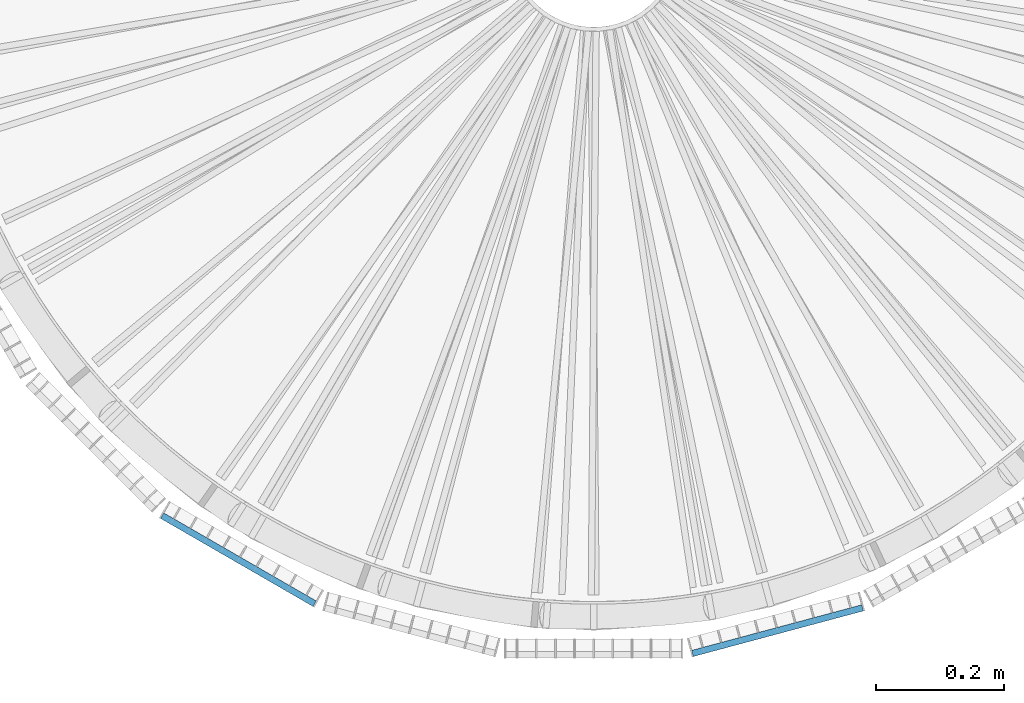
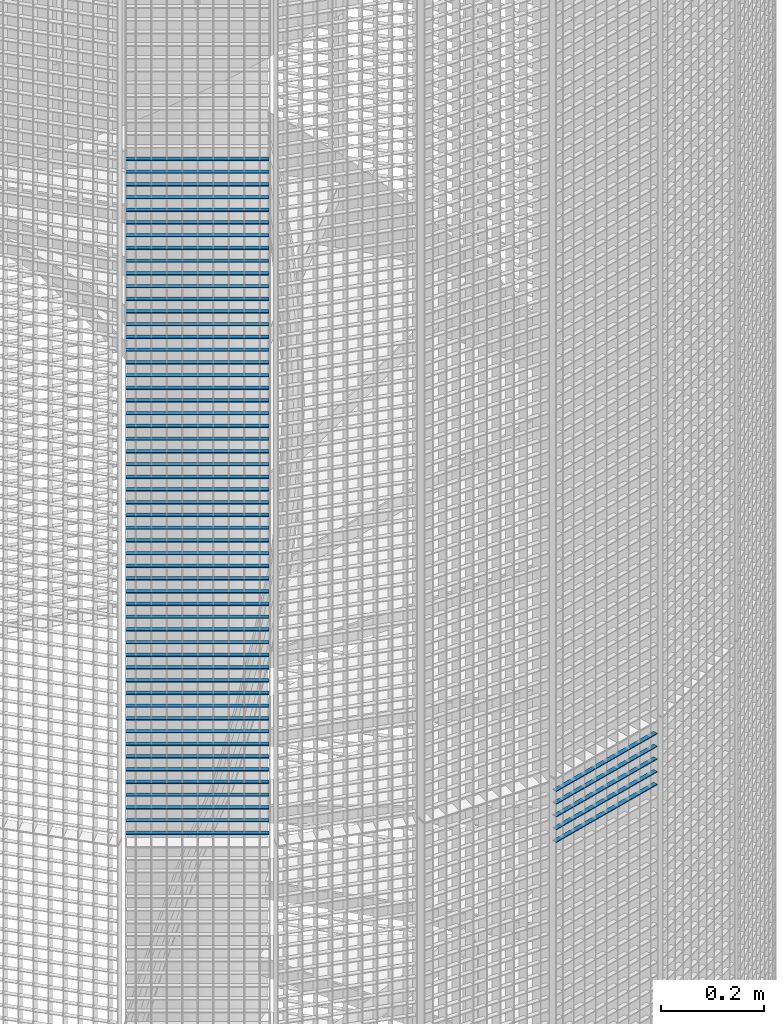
# One storey, part 167 of 1183: 59 beams, 2 elements without a shape of their own.
"""IFC2X3 building model written with IfcOpenShell, lengths in millimetres."""

import ifcopenshell
import ifcopenshell.guid

model = None  # the IFC model being written
_history = None  # IfcOwnerHistory: only IFC2X3 demands one
_inside = {}  # id of a spatial element -> (the spatial element, [elements in it])
_under = {}  # id of a project, library or spatial element -> (it, [spatial elements below it])
_declared = {}  # id of a project -> (the project, [libraries it declares])
_typed = {}  # id of a type object -> (the type object, [elements of that type])
_made_of = {}  # id of a material, layer set ... -> (it, [elements and type objects made of it])


def new_model(schema):
    """Start an empty IFC model of exactly this schema.

    Asked for "IFC4X3", IfcOpenShell would pick the latest addendum, in which some entities
    have other attributes; the version numbers below select the first issue.
    IFC2X3 requires an IfcOwnerHistory on every rooted entity: one is made here for all.
    """
    global model, _history
    if schema == "IFC4X3":
        model = ifcopenshell.file(schema_version=(4, 3, 0, 0))
    else:
        model = ifcopenshell.file(schema=schema)
    _inside.clear()
    _under.clear()
    _declared.clear()
    _typed.clear()
    _made_of.clear()
    _history = None
    if model.schema == "IFC2X3":
        org = make("IfcOrganization", Name="unknown")
        user = make(
            "IfcPersonAndOrganization",
            ThePerson=make("IfcPerson", FamilyName="unknown"),
            TheOrganization=org,
        )
        app = make(
            "IfcApplication",
            ApplicationDeveloper=org,
            Version="unknown",
            ApplicationFullName="unknown",
            ApplicationIdentifier="unknown",
        )
        _history = make(
            "IfcOwnerHistory",
            OwningUser=user,
            OwningApplication=app,
            ChangeAction="ADDED",
            CreationDate=0,
        )
    return model


def make(cls, **values):
    """One entity of the class cls with the attributes given. An attribute that is None is left unset."""
    return model.create_entity(
        cls, **{name: value for name, value in values.items() if value is not None}
    )


def rooted(cls, **values):
    """An entity with a GlobalId (a new one), such as an element, a storey or a relation."""
    return make(cls, GlobalId=ifcopenshell.guid.new(), OwnerHistory=_history, **values)


def si_unit(unit_type, name, prefix=None):
    """IfcSIUnit, for example si_unit("LENGTHUNIT", "METRE", prefix="MILLI")."""
    return make("IfcSIUnit", UnitType=unit_type, Prefix=prefix, Name=name)


def assignment(units):
    """IfcUnitAssignment: the units of a project."""
    return None if units is None else make("IfcUnitAssignment", Units=units)


def point(xyz):
    """IfcCartesianPoint."""
    return None if xyz is None else make("IfcCartesianPoint", Coordinates=xyz)


def direction(xyz):
    """IfcDirection."""
    return None if xyz is None else make("IfcDirection", DirectionRatios=xyz)


def frame(location, z_axis=None, x_axis=None):
    """IfcAxis2Placement3D, a coordinate frame: its origin and axes. An axis left out is left unset."""
    return make(
        "IfcAxis2Placement3D",
        Location=point(location),
        Axis=direction(z_axis),
        RefDirection=direction(x_axis),
    )


def frame_2d(location, x_axis=None):
    """IfcAxis2Placement2D, a coordinate frame in the plane: its origin and x axis."""
    return make(
        "IfcAxis2Placement2D", Location=point(location), RefDirection=direction(x_axis)
    )


def origin_with_axes():
    """The frame at (0, 0, 0) with the z axis (0, 0, 1) and the x axis (1, 0, 0) written out."""
    return frame((0.0, 0.0, 0.0), z_axis=(0.0, 0.0, 1.0), x_axis=(1.0, 0.0, 0.0))


def origin_2d_with_axis():
    """The frame at (0, 0) in the plane with the x axis (1, 0) written out."""
    return frame_2d((0.0, 0.0), x_axis=(1.0, 0.0))


def place(relative_to, where):
    """IfcLocalPlacement: puts the frame where relative to a parent placement (None: the world)."""
    return make(
        "IfcLocalPlacement", PlacementRelTo=relative_to, RelativePlacement=where
    )


def context(
    kind, dimensions, precision=None, world=None, true_north=None, identifier=None
):
    """IfcGeometricRepresentationContext, for example the 3D "Model" context."""
    return make(
        "IfcGeometricRepresentationContext",
        ContextIdentifier=identifier,
        ContextType=kind,
        CoordinateSpaceDimension=dimensions,
        Precision=precision,
        WorldCoordinateSystem=world,
        TrueNorth=true_north,
    )


def subcontext(parent, identifier, kind, view, scale=None):
    """IfcGeometricRepresentationSubContext, for example "Body" below "Model"."""
    return make(
        "IfcGeometricRepresentationSubContext",
        ContextIdentifier=identifier,
        ContextType=kind,
        ParentContext=parent,
        TargetScale=scale,
        TargetView=view,
    )


def project(units=None, contexts=None):
    """IfcProject with its units and contexts."""
    return rooted(
        "IfcProject",
        Name="project",
        RepresentationContexts=contexts,
        UnitsInContext=assignment(units),
    )


def spatial(cls, under=None, at=None, **own):
    """A site, building, storey or space (cls), placed at a placement, below another one or the project."""
    s = rooted(cls, ObjectPlacement=at, **own)
    if under is not None:
        _under.setdefault(under.id(), (under, []))[1].append(s)
    return s


def profile(cls, at=None, kind="AREA", **sizes):
    """A parametric profile (cls). Its sizes go by their IFC names, for example OverallWidth=200.0."""
    return make(cls, ProfileType=kind, Position=at, **sizes)


def rectangle(**sizes):
    """IfcRectangleProfileDef."""
    return profile("IfcRectangleProfileDef", **sizes)


def extrude(swept, where, along, depth):
    """IfcExtrudedAreaSolid: the profile swept, set in the frame where, extruded along a direction by depth."""
    return make(
        "IfcExtrudedAreaSolid",
        SweptArea=swept,
        Position=where,
        ExtrudedDirection=direction(along),
        Depth=depth,
    )


def shape(context_of_items, identifier, shape_type, items):
    """IfcShapeRepresentation: the items that make up one representation, for example the "Body"."""
    return make(
        "IfcShapeRepresentation",
        ContextOfItems=context_of_items,
        RepresentationIdentifier=identifier,
        RepresentationType=shape_type,
        Items=items,
    )


def material(Name=None, Category=None):
    """IfcMaterial."""
    return make("IfcMaterial", Name=Name, Category=Category)


def made_of(thing, what):
    """Note that an element or type object is made of a material, layer set ...; save() writes the relation."""
    if what is not None:
        _made_of.setdefault(what.id(), (what, []))[1].append(thing)
    return thing


def type_object(cls, material=None, **own):
    """A type object (cls), such as IfcWallType, which elements share."""
    return made_of(rooted(cls, **own), material)


def element(
    cls,
    number,
    at=None,
    inside=None,
    cuts=None,
    type_object=None,
    material=None,
    context=None,
    identifier="Body",
    shape_type=None,
    held_by="IfcProductDefinitionShape",
    body=None,
    shapes=None,
    **own,
):
    """One element of the class cls, such as IfcWall. Its Tag is "e" and its number.

    at: its placement. inside: the storey or other place that contains it. cuts: it is an
    opening in that element (IfcRelVoidsElement). A single representation is given by context,
    identifier, shape_type and body (its items); several are given by shapes. held_by: the class
    of the entity that holds the representations. save() writes the other relations.
    """
    e = rooted(cls, Tag="e%d" % number, ObjectPlacement=at, **own)
    if body is not None:
        shapes = [shape(context, identifier, shape_type, body)]
    if shapes is not None:
        e.Representation = make(held_by, Representations=shapes)
    if inside is not None:
        _inside.setdefault(inside.id(), (inside, []))[1].append(e)
    if cuts is not None:
        rooted(
            "IfcRelVoidsElement", RelatingBuildingElement=cuts, RelatedOpeningElement=e
        )
    if type_object is not None:
        _typed.setdefault(type_object.id(), (type_object, []))[1].append(e)
    return made_of(e, material)


def aggregate(whole, parts):
    """IfcRelAggregates: a whole, such as a stair, and the parts it consists of."""
    return rooted("IfcRelAggregates", RelatingObject=whole, RelatedObjects=parts)


def save(model, path):
    """Write the relations noted so far, then the file.

    IfcRelAggregates (storeys below a building ...), IfcRelContainedInSpatialStructure (elements
    in a storey), IfcRelDefinesByType, IfcRelAssociatesMaterial and IfcRelDeclares: one each for
    every whole, place, type object, material and project.
    """
    for whole, parts in _under.values():
        aggregate(whole, parts)
    for where, things in _inside.values():
        rooted(
            "IfcRelContainedInSpatialStructure",
            RelatedElements=things,
            RelatingStructure=where,
        )
    for kind, things in _typed.values():
        rooted("IfcRelDefinesByType", RelatedObjects=things, RelatingType=kind)
    for what, things in _made_of.values():
        rooted("IfcRelAssociatesMaterial", RelatedObjects=things, RelatingMaterial=what)
    for by, libraries in _declared.values():
        rooted("IfcRelDeclares", RelatingContext=by, RelatedDefinitions=libraries)
    model.write(path)


model = new_model("IFC2X3")

# Units and contexts
model_context = context("Model", 3, precision=1e-05, world=origin_with_axes())
body_context = subcontext(model_context, "Body", "Model", "MODEL_VIEW")
ifc_project = project(units=[si_unit("LENGTHUNIT", "METRE", prefix="MILLI"), si_unit("AREAUNIT", "SQUARE_METRE"), si_unit("VOLUMEUNIT", "CUBIC_METRE"), si_unit("MASSUNIT", "GRAM", prefix="KILO"), si_unit("TIMEUNIT", "SECOND"), si_unit("PLANEANGLEUNIT", "RADIAN"), si_unit("SOLIDANGLEUNIT", "STERADIAN"), si_unit("THERMODYNAMICTEMPERATUREUNIT", "DEGREE_CELSIUS"), si_unit("LUMINOUSINTENSITYUNIT", "LUMEN")], contexts=[model_context])

# Site, building, storey
site_placement = place(None, origin_with_axes())
site = spatial("IfcSite", under=ifc_project, at=site_placement, Name="Undefined", CompositionType="ELEMENT")
building_placement = place(site_placement, origin_with_axes())
building = spatial("IfcBuilding", under=site, at=building_placement, Name="Undefined", CompositionType="ELEMENT")
storey_placement = place(building_placement, origin_with_axes())
storey = spatial("IfcBuildingStorey", under=building, at=storey_placement, Name="Undefined", CompositionType="ELEMENT", Elevation=0.0)

# Assembly, beams
assembly_1_placement = place(storey_placement, origin_with_axes())
assembly_1 = element("IfcElementAssembly", 1, at=assembly_1_placement, inside=storey, Name="BORDURE", AssemblyPlace="NOTDEFINED", PredefinedType="NOTDEFINED")
ifc_material = material(Name="STEEL/S235JR")
beam_type = type_object("IfcBeamType", Name="PL2*10", PredefinedType="NOTDEFINED")
beam_1_placement = place(assembly_1_placement, frame((-676.248044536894, -895.303964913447, 4620.0), z_axis=(-0.49999999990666, -0.866025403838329, 0.0), x_axis=(0.866025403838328, -0.49999999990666, 0.0)))
beam_1 = element("IfcBeam", 2, at=beam_1_placement, type_object=beam_type, material=ifc_material, Name="ENTRETOISE", context=body_context, shape_type="SweptSolid", body=[
    extrude(rectangle(XDim=2.0, YDim=10.0, at=origin_2d_with_axis()), frame((275.999999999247, 9.09494701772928e-13, 1.53210777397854e-14), z_axis=(-1.0, 0.0, 0.0), x_axis=(0.0, -1.0, 0.0)), (0.0, 0.0, 1.0), 276.0),
])
beam_2_placement = place(assembly_1_placement, frame((-676.248044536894, -895.303964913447, 4590.0), z_axis=(-0.49999999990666, -0.866025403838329, 0.0), x_axis=(0.866025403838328, -0.49999999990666, 0.0)))
beam_2 = element("IfcBeam", 3, at=beam_2_placement, type_object=beam_type, material=ifc_material, Name="ENTRETOISE", context=body_context, shape_type="SweptSolid", body=[
    extrude(rectangle(XDim=2.0, YDim=10.0, at=origin_2d_with_axis()), frame((275.999999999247, 9.09494701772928e-13, 1.53210777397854e-14), z_axis=(-1.0, 0.0, 0.0), x_axis=(0.0, -1.0, 0.0)), (0.0, 0.0, 1.0), 276.0),
])
beam_3_placement = place(assembly_1_placement, frame((-676.248044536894, -895.303964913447, 4560.0), z_axis=(-0.49999999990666, -0.866025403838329, 0.0), x_axis=(0.866025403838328, -0.49999999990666, 0.0)))
beam_3 = element("IfcBeam", 4, at=beam_3_placement, type_object=beam_type, material=ifc_material, Name="ENTRETOISE", context=body_context, shape_type="SweptSolid", body=[
    extrude(rectangle(XDim=2.0, YDim=10.0, at=origin_2d_with_axis()), frame((275.999999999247, 9.09494701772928e-13, 1.53210777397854e-14), z_axis=(-1.0, 0.0, 0.0), x_axis=(0.0, -1.0, 0.0)), (0.0, 0.0, 1.0), 276.0),
])
beam_4_placement = place(assembly_1_placement, frame((-676.248044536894, -895.303964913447, 4530.0), z_axis=(-0.49999999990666, -0.866025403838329, 0.0), x_axis=(0.866025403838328, -0.49999999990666, 0.0)))
beam_4 = element("IfcBeam", 5, at=beam_4_placement, type_object=beam_type, material=ifc_material, Name="ENTRETOISE", context=body_context, shape_type="SweptSolid", body=[
    extrude(rectangle(XDim=2.0, YDim=10.0, at=origin_2d_with_axis()), frame((275.999999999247, 9.09494701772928e-13, 1.53210777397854e-14), z_axis=(-1.0, 0.0, 0.0), x_axis=(0.0, -1.0, 0.0)), (0.0, 0.0, 1.0), 276.0),
])
beam_5_placement = place(assembly_1_placement, frame((-676.248044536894, -895.303964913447, 4500.0), z_axis=(-0.49999999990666, -0.866025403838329, 0.0), x_axis=(0.866025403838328, -0.49999999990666, 0.0)))
beam_5 = element("IfcBeam", 6, at=beam_5_placement, type_object=beam_type, material=ifc_material, Name="ENTRETOISE", context=body_context, shape_type="SweptSolid", body=[
    extrude(rectangle(XDim=2.0, YDim=10.0, at=origin_2d_with_axis()), frame((275.999999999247, 9.09494701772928e-13, 1.53210777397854e-14), z_axis=(-1.0, 0.0, 0.0), x_axis=(0.0, -1.0, 0.0)), (0.0, 0.0, 1.0), 276.0),
])
beam_6_placement = place(assembly_1_placement, frame((-676.248044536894, -895.303964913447, 4470.0), z_axis=(-0.49999999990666, -0.866025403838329, 0.0), x_axis=(0.866025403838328, -0.49999999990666, 0.0)))
beam_6 = element("IfcBeam", 7, at=beam_6_placement, type_object=beam_type, material=ifc_material, Name="ENTRETOISE", context=body_context, shape_type="SweptSolid", body=[
    extrude(rectangle(XDim=2.0, YDim=10.0, at=origin_2d_with_axis()), frame((275.999999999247, 9.09494701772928e-13, 1.53210777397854e-14), z_axis=(-1.0, 0.0, 0.0), x_axis=(0.0, -1.0, 0.0)), (0.0, 0.0, 1.0), 276.0),
])
beam_7_placement = place(assembly_1_placement, frame((-676.248044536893, -895.303964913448, 4440.0), z_axis=(-0.49999999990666, -0.866025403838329, 0.0), x_axis=(0.866025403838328, -0.49999999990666, 0.0)))
beam_7 = element("IfcBeam", 8, at=beam_7_placement, type_object=beam_type, material=ifc_material, Name="ENTRETOISE", context=body_context, shape_type="SweptSolid", body=[
    extrude(rectangle(XDim=2.0, YDim=10.0, at=origin_2d_with_axis()), frame((275.999999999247, 9.09494701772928e-13, 1.53210777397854e-14), z_axis=(-1.0, 0.0, 0.0), x_axis=(0.0, -1.0, 0.0)), (0.0, 0.0, 1.0), 276.0),
])
beam_8_placement = place(assembly_1_placement, frame((-676.248044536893, -895.303964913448, 4410.0), z_axis=(-0.49999999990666, -0.866025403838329, 0.0), x_axis=(0.866025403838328, -0.49999999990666, 0.0)))
beam_8 = element("IfcBeam", 9, at=beam_8_placement, type_object=beam_type, material=ifc_material, Name="ENTRETOISE", context=body_context, shape_type="SweptSolid", body=[
    extrude(rectangle(XDim=2.0, YDim=10.0, at=origin_2d_with_axis()), frame((275.999999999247, 9.09494701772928e-13, 1.53210777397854e-14), z_axis=(-1.0, 0.0, 0.0), x_axis=(0.0, -1.0, 0.0)), (0.0, 0.0, 1.0), 276.0),
])
beam_9_placement = place(assembly_1_placement, frame((-676.248044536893, -895.303964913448, 4380.0), z_axis=(-0.49999999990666, -0.866025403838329, 0.0), x_axis=(0.866025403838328, -0.49999999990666, 0.0)))
beam_9 = element("IfcBeam", 10, at=beam_9_placement, type_object=beam_type, material=ifc_material, Name="ENTRETOISE", context=body_context, shape_type="SweptSolid", body=[
    extrude(rectangle(XDim=2.0, YDim=10.0, at=origin_2d_with_axis()), frame((275.999999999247, 9.09494701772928e-13, 1.53210777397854e-14), z_axis=(-1.0, 0.0, 0.0), x_axis=(0.0, -1.0, 0.0)), (0.0, 0.0, 1.0), 276.0),
])
beam_10_placement = place(assembly_1_placement, frame((-676.248044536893, -895.303964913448, 4350.0), z_axis=(-0.49999999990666, -0.866025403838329, 0.0), x_axis=(0.866025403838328, -0.49999999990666, 0.0)))
beam_10 = element("IfcBeam", 11, at=beam_10_placement, type_object=beam_type, material=ifc_material, Name="ENTRETOISE", context=body_context, shape_type="SweptSolid", body=[
    extrude(rectangle(XDim=2.0, YDim=10.0, at=origin_2d_with_axis()), frame((275.999999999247, 9.09494701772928e-13, 1.53210777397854e-14), z_axis=(-1.0, 0.0, 0.0), x_axis=(0.0, -1.0, 0.0)), (0.0, 0.0, 1.0), 276.0),
])
beam_11_placement = place(assembly_1_placement, frame((-676.248044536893, -895.303964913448, 4320.0), z_axis=(-0.49999999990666, -0.866025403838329, 0.0), x_axis=(0.866025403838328, -0.49999999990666, 0.0)))
beam_11 = element("IfcBeam", 12, at=beam_11_placement, type_object=beam_type, material=ifc_material, Name="ENTRETOISE", context=body_context, shape_type="SweptSolid", body=[
    extrude(rectangle(XDim=2.0, YDim=10.0, at=origin_2d_with_axis()), frame((275.999999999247, 9.09494701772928e-13, 1.53210777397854e-14), z_axis=(-1.0, 0.0, 0.0), x_axis=(0.0, -1.0, 0.0)), (0.0, 0.0, 1.0), 276.0),
])
beam_12_placement = place(assembly_1_placement, frame((-676.248044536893, -895.303964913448, 4290.0), z_axis=(-0.49999999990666, -0.866025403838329, 0.0), x_axis=(0.866025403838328, -0.49999999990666, 0.0)))
beam_12 = element("IfcBeam", 13, at=beam_12_placement, type_object=beam_type, material=ifc_material, Name="ENTRETOISE", context=body_context, shape_type="SweptSolid", body=[
    extrude(rectangle(XDim=2.0, YDim=10.0, at=origin_2d_with_axis()), frame((275.999999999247, 9.09494701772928e-13, 1.53210777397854e-14), z_axis=(-1.0, 0.0, 0.0), x_axis=(0.0, -1.0, 0.0)), (0.0, 0.0, 1.0), 276.0),
])
beam_13_placement = place(assembly_1_placement, frame((-676.248044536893, -895.303964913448, 4260.0), z_axis=(-0.49999999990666, -0.866025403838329, 0.0), x_axis=(0.866025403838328, -0.49999999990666, 0.0)))
beam_13 = element("IfcBeam", 14, at=beam_13_placement, type_object=beam_type, material=ifc_material, Name="ENTRETOISE", context=body_context, shape_type="SweptSolid", body=[
    extrude(rectangle(XDim=2.0, YDim=10.0, at=origin_2d_with_axis()), frame((275.999999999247, 9.09494701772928e-13, 1.53210777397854e-14), z_axis=(-1.0, 0.0, 0.0), x_axis=(0.0, -1.0, 0.0)), (0.0, 0.0, 1.0), 276.0),
])
beam_14_placement = place(assembly_1_placement, frame((-676.248044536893, -895.303964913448, 4230.0), z_axis=(-0.49999999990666, -0.866025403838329, 0.0), x_axis=(0.866025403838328, -0.49999999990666, 0.0)))
beam_14 = element("IfcBeam", 15, at=beam_14_placement, type_object=beam_type, material=ifc_material, Name="ENTRETOISE", context=body_context, shape_type="SweptSolid", body=[
    extrude(rectangle(XDim=2.0, YDim=10.0, at=origin_2d_with_axis()), frame((275.999999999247, 9.09494701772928e-13, 1.53210777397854e-14), z_axis=(-1.0, 0.0, 0.0), x_axis=(0.0, -1.0, 0.0)), (0.0, 0.0, 1.0), 276.0),
])
beam_15_placement = place(assembly_1_placement, frame((-676.248044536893, -895.303964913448, 4200.0), z_axis=(-0.49999999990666, -0.866025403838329, 0.0), x_axis=(0.866025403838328, -0.49999999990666, 0.0)))
beam_15 = element("IfcBeam", 16, at=beam_15_placement, type_object=beam_type, material=ifc_material, Name="ENTRETOISE", context=body_context, shape_type="SweptSolid", body=[
    extrude(rectangle(XDim=2.0, YDim=10.0, at=origin_2d_with_axis()), frame((275.999999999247, 9.09494701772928e-13, 1.53210777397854e-14), z_axis=(-1.0, 0.0, 0.0), x_axis=(0.0, -1.0, 0.0)), (0.0, 0.0, 1.0), 276.0),
])
beam_16_placement = place(assembly_1_placement, frame((-676.248044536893, -895.303964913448, 4170.0), z_axis=(-0.49999999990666, -0.866025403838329, 0.0), x_axis=(0.866025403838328, -0.49999999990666, 0.0)))
beam_16 = element("IfcBeam", 17, at=beam_16_placement, type_object=beam_type, material=ifc_material, Name="ENTRETOISE", context=body_context, shape_type="SweptSolid", body=[
    extrude(rectangle(XDim=2.0, YDim=10.0, at=origin_2d_with_axis()), frame((275.999999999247, 9.09494701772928e-13, 1.53210777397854e-14), z_axis=(-1.0, 0.0, 0.0), x_axis=(0.0, -1.0, 0.0)), (0.0, 0.0, 1.0), 276.0),
])
beam_17_placement = place(assembly_1_placement, frame((-676.248044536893, -895.303964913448, 4140.0), z_axis=(-0.49999999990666, -0.866025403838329, 0.0), x_axis=(0.866025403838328, -0.49999999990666, 0.0)))
beam_17 = element("IfcBeam", 18, at=beam_17_placement, type_object=beam_type, material=ifc_material, Name="ENTRETOISE", context=body_context, shape_type="SweptSolid", body=[
    extrude(rectangle(XDim=2.0, YDim=10.0, at=origin_2d_with_axis()), frame((275.999999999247, 9.09494701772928e-13, 1.53210777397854e-14), z_axis=(-1.0, 0.0, 0.0), x_axis=(0.0, -1.0, 0.0)), (0.0, 0.0, 1.0), 276.0),
])
beam_18_placement = place(assembly_1_placement, frame((-676.248044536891, -895.303964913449, 3720.0), z_axis=(-0.49999999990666, -0.866025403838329, 0.0), x_axis=(0.866025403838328, -0.49999999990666, 0.0)))
beam_18 = element("IfcBeam", 19, at=beam_18_placement, type_object=beam_type, material=ifc_material, Name="ENTRETOISE", context=body_context, shape_type="SweptSolid", body=[
    extrude(rectangle(XDim=2.0, YDim=10.0, at=origin_2d_with_axis()), frame((275.999999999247, 9.09494701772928e-13, 1.53210777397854e-14), z_axis=(-1.0, 0.0, 0.0), x_axis=(0.0, -1.0, 0.0)), (0.0, 0.0, 1.0), 276.0),
])
beam_19_placement = place(assembly_1_placement, frame((-676.248044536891, -895.303964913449, 3690.0), z_axis=(-0.49999999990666, -0.866025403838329, 0.0), x_axis=(0.866025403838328, -0.49999999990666, 0.0)))
beam_19 = element("IfcBeam", 20, at=beam_19_placement, type_object=beam_type, material=ifc_material, Name="ENTRETOISE", context=body_context, shape_type="SweptSolid", body=[
    extrude(rectangle(XDim=2.0, YDim=10.0, at=origin_2d_with_axis()), frame((275.999999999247, 9.09494701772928e-13, 1.53210777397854e-14), z_axis=(-1.0, 0.0, 0.0), x_axis=(0.0, -1.0, 0.0)), (0.0, 0.0, 1.0), 276.0),
])
beam_20_placement = place(assembly_1_placement, frame((-676.248044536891, -895.303964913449, 3750.0), z_axis=(-0.49999999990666, -0.866025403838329, 0.0), x_axis=(0.866025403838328, -0.49999999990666, 0.0)))
beam_20 = element("IfcBeam", 21, at=beam_20_placement, type_object=beam_type, material=ifc_material, Name="ENTRETOISE", context=body_context, shape_type="SweptSolid", body=[
    extrude(rectangle(XDim=2.0, YDim=10.0, at=origin_2d_with_axis()), frame((275.999999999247, 9.09494701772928e-13, 1.53210777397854e-14), z_axis=(-1.0, 0.0, 0.0), x_axis=(0.0, -1.0, 0.0)), (0.0, 0.0, 1.0), 276.0),
])
beam_21_placement = place(assembly_1_placement, frame((-676.248044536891, -895.303964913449, 3660.0), z_axis=(-0.49999999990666, -0.866025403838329, 0.0), x_axis=(0.866025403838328, -0.49999999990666, 0.0)))
beam_21 = element("IfcBeam", 22, at=beam_21_placement, type_object=beam_type, material=ifc_material, Name="ENTRETOISE", context=body_context, shape_type="SweptSolid", body=[
    extrude(rectangle(XDim=2.0, YDim=10.0, at=origin_2d_with_axis()), frame((275.999999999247, 9.09494701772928e-13, 1.53210777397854e-14), z_axis=(-1.0, 0.0, 0.0), x_axis=(0.0, -1.0, 0.0)), (0.0, 0.0, 1.0), 276.0),
])
beam_22_placement = place(assembly_1_placement, frame((-676.248044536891, -895.303964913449, 3630.0), z_axis=(-0.49999999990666, -0.866025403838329, 0.0), x_axis=(0.866025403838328, -0.49999999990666, 0.0)))
beam_22 = element("IfcBeam", 23, at=beam_22_placement, type_object=beam_type, material=ifc_material, Name="ENTRETOISE", context=body_context, shape_type="SweptSolid", body=[
    extrude(rectangle(XDim=2.0, YDim=10.0, at=origin_2d_with_axis()), frame((275.999999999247, 9.09494701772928e-13, 1.53210777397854e-14), z_axis=(-1.0, 0.0, 0.0), x_axis=(0.0, -1.0, 0.0)), (0.0, 0.0, 1.0), 276.0),
])
beam_23_placement = place(assembly_1_placement, frame((-676.248044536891, -895.303964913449, 3780.0), z_axis=(-0.49999999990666, -0.866025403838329, 0.0), x_axis=(0.866025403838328, -0.49999999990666, 0.0)))
beam_23 = element("IfcBeam", 24, at=beam_23_placement, type_object=beam_type, material=ifc_material, Name="ENTRETOISE", context=body_context, shape_type="SweptSolid", body=[
    extrude(rectangle(XDim=2.0, YDim=10.0, at=origin_2d_with_axis()), frame((275.999999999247, 9.09494701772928e-13, 1.53210777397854e-14), z_axis=(-1.0, 0.0, 0.0), x_axis=(0.0, -1.0, 0.0)), (0.0, 0.0, 1.0), 276.0),
])
beam_24_placement = place(assembly_1_placement, frame((-676.248044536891, -895.30396491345, 3600.0), z_axis=(-0.49999999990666, -0.866025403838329, 0.0), x_axis=(0.866025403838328, -0.49999999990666, 0.0)))
beam_24 = element("IfcBeam", 25, at=beam_24_placement, type_object=beam_type, material=ifc_material, Name="ENTRETOISE", context=body_context, shape_type="SweptSolid", body=[
    extrude(rectangle(XDim=2.0, YDim=10.0, at=origin_2d_with_axis()), frame((275.999999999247, 9.09494701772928e-13, 1.53210777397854e-14), z_axis=(-1.0, 0.0, 0.0), x_axis=(0.0, -1.0, 0.0)), (0.0, 0.0, 1.0), 276.0),
])
beam_25_placement = place(assembly_1_placement, frame((-676.248044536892, -895.303964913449, 3810.0), z_axis=(-0.49999999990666, -0.866025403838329, 0.0), x_axis=(0.866025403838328, -0.49999999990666, 0.0)))
beam_25 = element("IfcBeam", 26, at=beam_25_placement, type_object=beam_type, material=ifc_material, Name="ENTRETOISE", context=body_context, shape_type="SweptSolid", body=[
    extrude(rectangle(XDim=2.0, YDim=10.0, at=origin_2d_with_axis()), frame((275.999999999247, 9.09494701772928e-13, 1.53210777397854e-14), z_axis=(-1.0, 0.0, 0.0), x_axis=(0.0, -1.0, 0.0)), (0.0, 0.0, 1.0), 276.0),
])
beam_26_placement = place(assembly_1_placement, frame((-676.248044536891, -895.30396491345, 3570.0), z_axis=(-0.49999999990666, -0.866025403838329, 0.0), x_axis=(0.866025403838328, -0.49999999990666, 0.0)))
beam_26 = element("IfcBeam", 27, at=beam_26_placement, type_object=beam_type, material=ifc_material, Name="ENTRETOISE", context=body_context, shape_type="SweptSolid", body=[
    extrude(rectangle(XDim=2.0, YDim=10.0, at=origin_2d_with_axis()), frame((275.999999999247, 9.09494701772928e-13, 1.53210777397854e-14), z_axis=(-1.0, 0.0, 0.0), x_axis=(0.0, -1.0, 0.0)), (0.0, 0.0, 1.0), 276.0),
])
beam_27_placement = place(assembly_1_placement, frame((-676.248044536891, -895.30396491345, 3540.0), z_axis=(-0.49999999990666, -0.866025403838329, 0.0), x_axis=(0.866025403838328, -0.49999999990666, 0.0)))
beam_27 = element("IfcBeam", 28, at=beam_27_placement, type_object=beam_type, material=ifc_material, Name="ENTRETOISE", context=body_context, shape_type="SweptSolid", body=[
    extrude(rectangle(XDim=2.0, YDim=10.0, at=origin_2d_with_axis()), frame((275.999999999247, 9.09494701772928e-13, 1.53210777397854e-14), z_axis=(-1.0, 0.0, 0.0), x_axis=(0.0, -1.0, 0.0)), (0.0, 0.0, 1.0), 276.0),
])
beam_28_placement = place(assembly_1_placement, frame((-676.248044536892, -895.303964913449, 3840.0), z_axis=(-0.49999999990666, -0.866025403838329, 0.0), x_axis=(0.866025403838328, -0.49999999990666, 0.0)))
beam_28 = element("IfcBeam", 29, at=beam_28_placement, type_object=beam_type, material=ifc_material, Name="ENTRETOISE", context=body_context, shape_type="SweptSolid", body=[
    extrude(rectangle(XDim=2.0, YDim=10.0, at=origin_2d_with_axis()), frame((275.999999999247, 9.09494701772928e-13, 1.53210777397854e-14), z_axis=(-1.0, 0.0, 0.0), x_axis=(0.0, -1.0, 0.0)), (0.0, 0.0, 1.0), 276.0),
])
beam_29_placement = place(assembly_1_placement, frame((-676.248044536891, -895.303964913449, 3510.0), z_axis=(-0.49999999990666, -0.866025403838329, 0.0), x_axis=(0.866025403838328, -0.49999999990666, 0.0)))
beam_29 = element("IfcBeam", 30, at=beam_29_placement, type_object=beam_type, material=ifc_material, Name="ENTRETOISE", context=body_context, shape_type="SweptSolid", body=[
    extrude(rectangle(XDim=2.0, YDim=10.0, at=origin_2d_with_axis()), frame((275.999999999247, 9.09494701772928e-13, 1.53210777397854e-14), z_axis=(-1.0, 0.0, 0.0), x_axis=(0.0, -1.0, 0.0)), (0.0, 0.0, 1.0), 276.0),
])
beam_30_placement = place(assembly_1_placement, frame((-676.248044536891, -895.303964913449, 3480.0), z_axis=(-0.49999999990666, -0.866025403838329, 0.0), x_axis=(0.866025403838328, -0.49999999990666, 0.0)))
beam_30 = element("IfcBeam", 31, at=beam_30_placement, type_object=beam_type, material=ifc_material, Name="ENTRETOISE", context=body_context, shape_type="SweptSolid", body=[
    extrude(rectangle(XDim=2.0, YDim=10.0, at=origin_2d_with_axis()), frame((275.999999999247, 9.09494701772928e-13, 1.53210777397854e-14), z_axis=(-1.0, 0.0, 0.0), x_axis=(0.0, -1.0, 0.0)), (0.0, 0.0, 1.0), 276.0),
])
beam_31_placement = place(assembly_1_placement, frame((-676.248044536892, -895.303964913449, 3870.0), z_axis=(-0.49999999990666, -0.866025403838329, 0.0), x_axis=(0.866025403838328, -0.49999999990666, 0.0)))
beam_31 = element("IfcBeam", 32, at=beam_31_placement, type_object=beam_type, material=ifc_material, Name="ENTRETOISE", context=body_context, shape_type="SweptSolid", body=[
    extrude(rectangle(XDim=2.0, YDim=10.0, at=origin_2d_with_axis()), frame((275.999999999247, 9.09494701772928e-13, 1.53210777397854e-14), z_axis=(-1.0, 0.0, 0.0), x_axis=(0.0, -1.0, 0.0)), (0.0, 0.0, 1.0), 276.0),
])
beam_32_placement = place(assembly_1_placement, frame((-676.248044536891, -895.30396491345, 3450.0), z_axis=(-0.49999999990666, -0.866025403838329, 0.0), x_axis=(0.866025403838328, -0.49999999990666, 0.0)))
beam_32 = element("IfcBeam", 33, at=beam_32_placement, type_object=beam_type, material=ifc_material, Name="ENTRETOISE", context=body_context, shape_type="SweptSolid", body=[
    extrude(rectangle(XDim=2.0, YDim=10.0, at=origin_2d_with_axis()), frame((275.999999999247, 9.09494701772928e-13, 1.53210777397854e-14), z_axis=(-1.0, 0.0, 0.0), x_axis=(0.0, -1.0, 0.0)), (0.0, 0.0, 1.0), 276.0),
])
beam_33_placement = place(assembly_1_placement, frame((-676.24804453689, -895.30396491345, 3420.0), z_axis=(-0.49999999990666, -0.866025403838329, 0.0), x_axis=(0.866025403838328, -0.49999999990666, 0.0)))
beam_33 = element("IfcBeam", 34, at=beam_33_placement, type_object=beam_type, material=ifc_material, Name="ENTRETOISE", context=body_context, shape_type="SweptSolid", body=[
    extrude(rectangle(XDim=2.0, YDim=10.0, at=origin_2d_with_axis()), frame((275.999999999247, 9.09494701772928e-13, 1.53210777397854e-14), z_axis=(-1.0, 0.0, 0.0), x_axis=(0.0, -1.0, 0.0)), (0.0, 0.0, 1.0), 276.0),
])
beam_34_placement = place(assembly_1_placement, frame((-676.248044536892, -895.303964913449, 3900.0), z_axis=(-0.49999999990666, -0.866025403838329, 0.0), x_axis=(0.866025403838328, -0.49999999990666, 0.0)))
beam_34 = element("IfcBeam", 35, at=beam_34_placement, type_object=beam_type, material=ifc_material, Name="ENTRETOISE", context=body_context, shape_type="SweptSolid", body=[
    extrude(rectangle(XDim=2.0, YDim=10.0, at=origin_2d_with_axis()), frame((275.999999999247, 9.09494701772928e-13, 1.53210777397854e-14), z_axis=(-1.0, 0.0, 0.0), x_axis=(0.0, -1.0, 0.0)), (0.0, 0.0, 1.0), 276.0),
])
beam_35_placement = place(assembly_1_placement, frame((-676.24804453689, -895.30396491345, 3390.0), z_axis=(-0.49999999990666, -0.866025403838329, 0.0), x_axis=(0.866025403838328, -0.49999999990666, 0.0)))
beam_35 = element("IfcBeam", 36, at=beam_35_placement, type_object=beam_type, material=ifc_material, Name="ENTRETOISE", context=body_context, shape_type="SweptSolid", body=[
    extrude(rectangle(XDim=2.0, YDim=10.0, at=origin_2d_with_axis()), frame((275.999999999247, 9.09494701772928e-13, 1.53210777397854e-14), z_axis=(-1.0, 0.0, 0.0), x_axis=(0.0, -1.0, 0.0)), (0.0, 0.0, 1.0), 276.0),
])
beam_36_placement = place(assembly_1_placement, frame((-676.248044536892, -895.303964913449, 3930.0), z_axis=(-0.49999999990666, -0.866025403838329, 0.0), x_axis=(0.866025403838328, -0.49999999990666, 0.0)))
beam_36 = element("IfcBeam", 37, at=beam_36_placement, type_object=beam_type, material=ifc_material, Name="ENTRETOISE", context=body_context, shape_type="SweptSolid", body=[
    extrude(rectangle(XDim=2.0, YDim=10.0, at=origin_2d_with_axis()), frame((275.999999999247, 9.09494701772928e-13, 1.53210777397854e-14), z_axis=(-1.0, 0.0, 0.0), x_axis=(0.0, -1.0, 0.0)), (0.0, 0.0, 1.0), 276.0),
])
beam_37_placement = place(assembly_1_placement, frame((-676.24804453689, -895.30396491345, 3360.0), z_axis=(-0.49999999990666, -0.866025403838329, 0.0), x_axis=(0.866025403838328, -0.49999999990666, 0.0)))
beam_37 = element("IfcBeam", 38, at=beam_37_placement, type_object=beam_type, material=ifc_material, Name="ENTRETOISE", context=body_context, shape_type="SweptSolid", body=[
    extrude(rectangle(XDim=2.0, YDim=10.0, at=origin_2d_with_axis()), frame((275.999999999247, 9.09494701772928e-13, 1.53210777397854e-14), z_axis=(-1.0, 0.0, 0.0), x_axis=(0.0, -1.0, 0.0)), (0.0, 0.0, 1.0), 276.0),
])
beam_38_placement = place(assembly_1_placement, frame((-676.24804453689, -895.30396491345, 3330.0), z_axis=(-0.49999999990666, -0.866025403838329, 0.0), x_axis=(0.866025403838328, -0.49999999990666, 0.0)))
beam_38 = element("IfcBeam", 39, at=beam_38_placement, type_object=beam_type, material=ifc_material, Name="ENTRETOISE", context=body_context, shape_type="SweptSolid", body=[
    extrude(rectangle(XDim=2.0, YDim=10.0, at=origin_2d_with_axis()), frame((275.999999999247, 9.09494701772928e-13, 1.53210777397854e-14), z_axis=(-1.0, 0.0, 0.0), x_axis=(0.0, -1.0, 0.0)), (0.0, 0.0, 1.0), 276.0),
])
beam_39_placement = place(assembly_1_placement, frame((-676.248044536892, -895.303964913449, 3960.0), z_axis=(-0.49999999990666, -0.866025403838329, 0.0), x_axis=(0.866025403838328, -0.49999999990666, 0.0)))
beam_39 = element("IfcBeam", 40, at=beam_39_placement, type_object=beam_type, material=ifc_material, Name="ENTRETOISE", context=body_context, shape_type="SweptSolid", body=[
    extrude(rectangle(XDim=2.0, YDim=10.0, at=origin_2d_with_axis()), frame((275.999999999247, 9.09494701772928e-13, 1.53210777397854e-14), z_axis=(-1.0, 0.0, 0.0), x_axis=(0.0, -1.0, 0.0)), (0.0, 0.0, 1.0), 276.0),
])
beam_40_placement = place(assembly_1_placement, frame((-676.24804453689, -895.30396491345, 3300.0), z_axis=(-0.49999999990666, -0.866025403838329, 0.0), x_axis=(0.866025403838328, -0.49999999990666, 0.0)))
beam_40 = element("IfcBeam", 41, at=beam_40_placement, type_object=beam_type, material=ifc_material, Name="ENTRETOISE", context=body_context, shape_type="SweptSolid", body=[
    extrude(rectangle(XDim=2.0, YDim=10.0, at=origin_2d_with_axis()), frame((275.999999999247, 9.09494701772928e-13, 1.53210777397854e-14), z_axis=(-1.0, 0.0, 0.0), x_axis=(0.0, -1.0, 0.0)), (0.0, 0.0, 1.0), 276.0),
])
beam_41_placement = place(assembly_1_placement, frame((-676.24804453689, -895.30396491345, 3270.0), z_axis=(-0.49999999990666, -0.866025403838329, 0.0), x_axis=(0.866025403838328, -0.49999999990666, 0.0)))
beam_41 = element("IfcBeam", 42, at=beam_41_placement, type_object=beam_type, material=ifc_material, Name="ENTRETOISE", context=body_context, shape_type="SweptSolid", body=[
    extrude(rectangle(XDim=2.0, YDim=10.0, at=origin_2d_with_axis()), frame((275.999999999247, 9.09494701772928e-13, 1.53210777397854e-14), z_axis=(-1.0, 0.0, 0.0), x_axis=(0.0, -1.0, 0.0)), (0.0, 0.0, 1.0), 276.0),
])
beam_42_placement = place(assembly_1_placement, frame((-676.248044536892, -895.303964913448, 3990.0), z_axis=(-0.49999999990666, -0.866025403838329, 0.0), x_axis=(0.866025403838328, -0.49999999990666, 0.0)))
beam_42 = element("IfcBeam", 43, at=beam_42_placement, type_object=beam_type, material=ifc_material, Name="ENTRETOISE", context=body_context, shape_type="SweptSolid", body=[
    extrude(rectangle(XDim=2.0, YDim=10.0, at=origin_2d_with_axis()), frame((275.999999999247, 9.09494701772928e-13, 1.53210777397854e-14), z_axis=(-1.0, 0.0, 0.0), x_axis=(0.0, -1.0, 0.0)), (0.0, 0.0, 1.0), 276.0),
])
beam_43_placement = place(assembly_1_placement, frame((-676.24804453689, -895.30396491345, 3240.0), z_axis=(-0.49999999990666, -0.866025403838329, 0.0), x_axis=(0.866025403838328, -0.49999999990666, 0.0)))
beam_43 = element("IfcBeam", 44, at=beam_43_placement, type_object=beam_type, material=ifc_material, Name="ENTRETOISE", context=body_context, shape_type="SweptSolid", body=[
    extrude(rectangle(XDim=2.0, YDim=10.0, at=origin_2d_with_axis()), frame((275.999999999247, 9.09494701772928e-13, 1.53210777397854e-14), z_axis=(-1.0, 0.0, 0.0), x_axis=(0.0, -1.0, 0.0)), (0.0, 0.0, 1.0), 276.0),
])
beam_44_placement = place(assembly_1_placement, frame((-676.248044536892, -895.303964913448, 4020.0), z_axis=(-0.49999999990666, -0.866025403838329, 0.0), x_axis=(0.866025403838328, -0.49999999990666, 0.0)))
beam_44 = element("IfcBeam", 45, at=beam_44_placement, type_object=beam_type, material=ifc_material, Name="ENTRETOISE", context=body_context, shape_type="SweptSolid", body=[
    extrude(rectangle(XDim=2.0, YDim=10.0, at=origin_2d_with_axis()), frame((275.999999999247, 9.09494701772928e-13, 1.53210777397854e-14), z_axis=(-1.0, 0.0, 0.0), x_axis=(0.0, -1.0, 0.0)), (0.0, 0.0, 1.0), 276.0),
])
beam_45_placement = place(assembly_1_placement, frame((-676.24804453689, -895.30396491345, 3210.0), z_axis=(-0.49999999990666, -0.866025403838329, 0.0), x_axis=(0.866025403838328, -0.49999999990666, 0.0)))
beam_45 = element("IfcBeam", 46, at=beam_45_placement, type_object=beam_type, material=ifc_material, Name="ENTRETOISE", context=body_context, shape_type="SweptSolid", body=[
    extrude(rectangle(XDim=2.0, YDim=10.0, at=origin_2d_with_axis()), frame((275.999999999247, 9.09494701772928e-13, 1.53210777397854e-14), z_axis=(-1.0, 0.0, 0.0), x_axis=(0.0, -1.0, 0.0)), (0.0, 0.0, 1.0), 276.0),
])
beam_46_placement = place(assembly_1_placement, frame((-676.24804453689, -895.30396491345, 3180.0), z_axis=(-0.49999999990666, -0.866025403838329, 0.0), x_axis=(0.866025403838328, -0.49999999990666, 0.0)))
beam_46 = element("IfcBeam", 47, at=beam_46_placement, type_object=beam_type, material=ifc_material, Name="ENTRETOISE", context=body_context, shape_type="SweptSolid", body=[
    extrude(rectangle(XDim=2.0, YDim=10.0, at=origin_2d_with_axis()), frame((275.999999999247, 9.09494701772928e-13, 1.53210777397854e-14), z_axis=(-1.0, 0.0, 0.0), x_axis=(0.0, -1.0, 0.0)), (0.0, 0.0, 1.0), 276.0),
])
beam_47_placement = place(assembly_1_placement, frame((-676.248044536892, -895.303964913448, 4050.0), z_axis=(-0.49999999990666, -0.866025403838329, 0.0), x_axis=(0.866025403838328, -0.49999999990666, 0.0)))
beam_47 = element("IfcBeam", 48, at=beam_47_placement, type_object=beam_type, material=ifc_material, Name="ENTRETOISE", context=body_context, shape_type="SweptSolid", body=[
    extrude(rectangle(XDim=2.0, YDim=10.0, at=origin_2d_with_axis()), frame((275.999999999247, 9.09494701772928e-13, 1.53210777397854e-14), z_axis=(-1.0, 0.0, 0.0), x_axis=(0.0, -1.0, 0.0)), (0.0, 0.0, 1.0), 276.0),
])
beam_48_placement = place(assembly_1_placement, frame((-676.24804453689, -895.30396491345, 3150.0), z_axis=(-0.49999999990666, -0.866025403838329, 0.0), x_axis=(0.866025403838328, -0.49999999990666, 0.0)))
beam_48 = element("IfcBeam", 49, at=beam_48_placement, type_object=beam_type, material=ifc_material, Name="ENTRETOISE", context=body_context, shape_type="SweptSolid", body=[
    extrude(rectangle(XDim=2.0, YDim=10.0, at=origin_2d_with_axis()), frame((275.999999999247, 9.09494701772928e-13, 1.53210777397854e-14), z_axis=(-1.0, 0.0, 0.0), x_axis=(0.0, -1.0, 0.0)), (0.0, 0.0, 1.0), 276.0),
])
beam_49_placement = place(assembly_1_placement, frame((-676.248044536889, -895.30396491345, 3120.0), z_axis=(-0.49999999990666, -0.866025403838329, 0.0), x_axis=(0.866025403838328, -0.49999999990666, 0.0)))
beam_49 = element("IfcBeam", 50, at=beam_49_placement, type_object=beam_type, material=ifc_material, Name="ENTRETOISE", context=body_context, shape_type="SweptSolid", body=[
    extrude(rectangle(XDim=2.0, YDim=10.0, at=origin_2d_with_axis()), frame((275.999999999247, 9.09494701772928e-13, 1.53210777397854e-14), z_axis=(-1.0, 0.0, 0.0), x_axis=(0.0, -1.0, 0.0)), (0.0, 0.0, 1.0), 276.0),
])
beam_50_placement = place(assembly_1_placement, frame((-676.248044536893, -895.303964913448, 4080.0), z_axis=(-0.49999999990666, -0.866025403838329, 0.0), x_axis=(0.866025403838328, -0.49999999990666, 0.0)))
beam_50 = element("IfcBeam", 51, at=beam_50_placement, type_object=beam_type, material=ifc_material, Name="ENTRETOISE", context=body_context, shape_type="SweptSolid", body=[
    extrude(rectangle(XDim=2.0, YDim=10.0, at=origin_2d_with_axis()), frame((275.999999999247, 9.09494701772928e-13, 1.53210777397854e-14), z_axis=(-1.0, 0.0, 0.0), x_axis=(0.0, -1.0, 0.0)), (0.0, 0.0, 1.0), 276.0),
])
beam_51_placement = place(assembly_1_placement, frame((-676.248044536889, -895.30396491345, 3090.0), z_axis=(-0.49999999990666, -0.866025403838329, 0.0), x_axis=(0.866025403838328, -0.49999999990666, 0.0)))
beam_51 = element("IfcBeam", 52, at=beam_51_placement, type_object=beam_type, material=ifc_material, Name="ENTRETOISE", context=body_context, shape_type="SweptSolid", body=[
    extrude(rectangle(XDim=2.0, YDim=10.0, at=origin_2d_with_axis()), frame((275.999999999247, 9.09494701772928e-13, 1.53210777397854e-14), z_axis=(-1.0, 0.0, 0.0), x_axis=(0.0, -1.0, 0.0)), (0.0, 0.0, 1.0), 276.0),
])
beam_52_placement = place(assembly_1_placement, frame((-676.248044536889, -895.30396491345, 3060.0), z_axis=(-0.49999999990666, -0.866025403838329, 0.0), x_axis=(0.866025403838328, -0.49999999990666, 0.0)))
beam_52 = element("IfcBeam", 53, at=beam_52_placement, type_object=beam_type, material=ifc_material, Name="ENTRETOISE", context=body_context, shape_type="SweptSolid", body=[
    extrude(rectangle(XDim=2.0, YDim=10.0, at=origin_2d_with_axis()), frame((275.999999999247, 9.09494701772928e-13, 1.53210777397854e-14), z_axis=(-1.0, 0.0, 0.0), x_axis=(0.0, -1.0, 0.0)), (0.0, 0.0, 1.0), 276.0),
])
beam_53_placement = place(assembly_1_placement, frame((-676.248044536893, -895.303964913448, 4110.0), z_axis=(-0.49999999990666, -0.866025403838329, 0.0), x_axis=(0.866025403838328, -0.49999999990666, 0.0)))
beam_53 = element("IfcBeam", 54, at=beam_53_placement, type_object=beam_type, material=ifc_material, Name="ENTRETOISE", context=body_context, shape_type="SweptSolid", body=[
    extrude(rectangle(XDim=2.0, YDim=10.0, at=origin_2d_with_axis()), frame((275.999999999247, 9.09494701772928e-13, 1.53210777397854e-14), z_axis=(-1.0, 0.0, 0.0), x_axis=(0.0, -1.0, 0.0)), (0.0, 0.0, 1.0), 276.0),
])
beam_54_placement = place(assembly_1_placement, frame((-676.248044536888, -895.30396491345, 3030.0), z_axis=(-0.49999999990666, -0.866025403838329, 0.0), x_axis=(0.866025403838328, -0.49999999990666, 0.0)))
beam_54 = element("IfcBeam", 55, at=beam_54_placement, type_object=beam_type, material=ifc_material, Name="ENTRETOISE", context=body_context, shape_type="SweptSolid", body=[
    extrude(rectangle(XDim=2.0, YDim=10.0, at=origin_2d_with_axis()), frame((275.999999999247, 9.09494701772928e-13, 1.53210777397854e-14), z_axis=(-1.0, 0.0, 0.0), x_axis=(0.0, -1.0, 0.0)), (0.0, 0.0, 1.0), 276.0),
])
aggregate(assembly_1, [beam_1, beam_2, beam_3, beam_4, beam_5, beam_6, beam_7, beam_8, beam_9, beam_10, beam_11, beam_12, beam_13, beam_14, beam_15, beam_16, beam_17, beam_18, beam_19, beam_20, beam_21, beam_22, beam_23, beam_24, beam_25, beam_26, beam_27, beam_28, beam_29, beam_30, beam_31, beam_32, beam_33, beam_34, beam_35, beam_36, beam_37, beam_38, beam_39, beam_40, beam_41, beam_42, beam_43, beam_44, beam_45, beam_46, beam_47, beam_48, beam_49, beam_50, beam_51, beam_52, beam_53, beam_54])

assembly_2_placement = place(storey_placement, origin_with_axes())
assembly_2 = element("IfcElementAssembly", 56, at=assembly_2_placement, inside=storey, Name="BORDURE", AssemblyPlace="NOTDEFINED", PredefinedType="NOTDEFINED")
beam_55_placement = place(assembly_2_placement, frame((154.895926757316, -1111.25508286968, 2970.0), z_axis=(0.258819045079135, -0.965925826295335, 0.0), x_axis=(0.965925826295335, 0.258819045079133, 0.0)))
beam_55 = element("IfcBeam", 57, at=beam_55_placement, type_object=beam_type, material=ifc_material, Name="ENTRETOISE", context=body_context, shape_type="SweptSolid", body=[
    extrude(rectangle(XDim=2.0, YDim=10.0, at=origin_2d_with_axis()), frame((275.999999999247, 9.09494701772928e-13, 1.53210777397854e-14), z_axis=(-1.0, 0.0, 0.0), x_axis=(0.0, -1.0, 0.0)), (0.0, 0.0, 1.0), 276.0),
])
beam_56_placement = place(assembly_2_placement, frame((154.895926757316, -1111.25508286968, 2940.0), z_axis=(0.258819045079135, -0.965925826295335, 0.0), x_axis=(0.965925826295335, 0.258819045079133, 0.0)))
beam_56 = element("IfcBeam", 58, at=beam_56_placement, type_object=beam_type, material=ifc_material, Name="ENTRETOISE", context=body_context, shape_type="SweptSolid", body=[
    extrude(rectangle(XDim=2.0, YDim=10.0, at=origin_2d_with_axis()), frame((275.999999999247, 9.09494701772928e-13, 1.53210777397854e-14), z_axis=(-1.0, 0.0, 0.0), x_axis=(0.0, -1.0, 0.0)), (0.0, 0.0, 1.0), 276.0),
])
beam_57_placement = place(assembly_2_placement, frame((154.895926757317, -1111.25508286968, 2910.0), z_axis=(0.258819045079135, -0.965925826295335, 0.0), x_axis=(0.965925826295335, 0.258819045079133, 0.0)))
beam_57 = element("IfcBeam", 59, at=beam_57_placement, type_object=beam_type, material=ifc_material, Name="ENTRETOISE", context=body_context, shape_type="SweptSolid", body=[
    extrude(rectangle(XDim=2.0, YDim=10.0, at=origin_2d_with_axis()), frame((275.999999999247, 9.09494701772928e-13, 1.53210777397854e-14), z_axis=(-1.0, 0.0, 0.0), x_axis=(0.0, -1.0, 0.0)), (0.0, 0.0, 1.0), 276.0),
])
beam_58_placement = place(assembly_2_placement, frame((154.895926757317, -1111.25508286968, 2880.0), z_axis=(0.258819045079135, -0.965925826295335, 0.0), x_axis=(0.965925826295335, 0.258819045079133, 0.0)))
beam_58 = element("IfcBeam", 60, at=beam_58_placement, type_object=beam_type, material=ifc_material, Name="ENTRETOISE", context=body_context, shape_type="SweptSolid", body=[
    extrude(rectangle(XDim=2.0, YDim=10.0, at=origin_2d_with_axis()), frame((275.999999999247, 9.09494701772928e-13, 1.53210777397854e-14), z_axis=(-1.0, 0.0, 0.0), x_axis=(0.0, -1.0, 0.0)), (0.0, 0.0, 1.0), 276.0),
])
beam_59_placement = place(assembly_2_placement, frame((154.895926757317, -1111.25508286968, 2850.0), z_axis=(0.258819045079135, -0.965925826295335, 0.0), x_axis=(0.965925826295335, 0.258819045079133, 0.0)))
beam_59 = element("IfcBeam", 61, at=beam_59_placement, type_object=beam_type, material=ifc_material, Name="ENTRETOISE", context=body_context, shape_type="SweptSolid", body=[
    extrude(rectangle(XDim=2.0, YDim=10.0, at=origin_2d_with_axis()), frame((275.999999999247, 9.09494701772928e-13, 1.53210777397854e-14), z_axis=(-1.0, 0.0, 0.0), x_axis=(0.0, -1.0, 0.0)), (0.0, 0.0, 1.0), 276.0),
])
aggregate(assembly_2, [beam_55, beam_56, beam_57, beam_58, beam_59])

save(model, "model.ifc")
